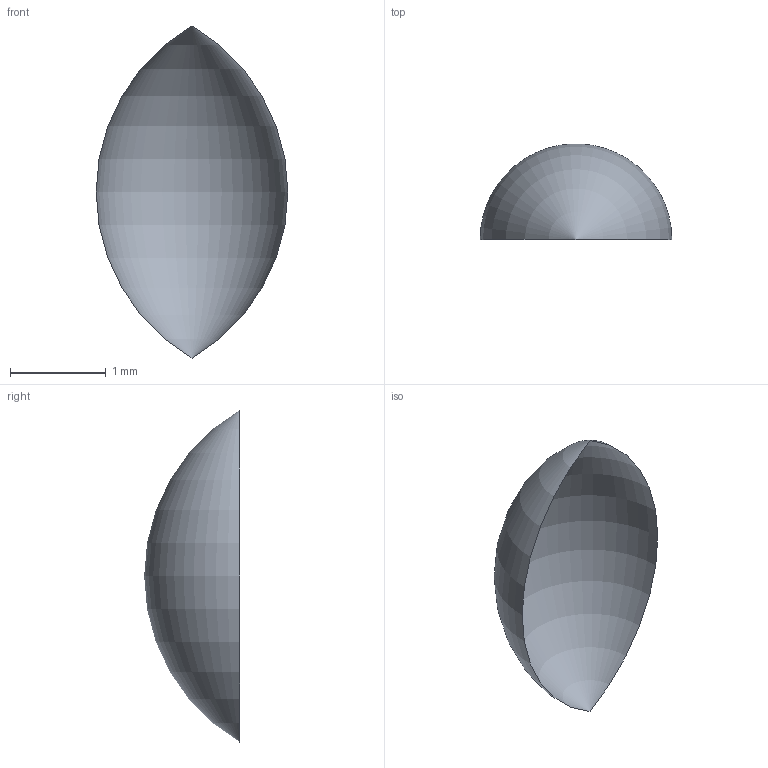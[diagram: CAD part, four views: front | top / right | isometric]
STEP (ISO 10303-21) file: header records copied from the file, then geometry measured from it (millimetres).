
FILE_DESCRIPTION(('BRL-CAD AP214 selected degenerate torus sheet fixture'),'2;1');
FILE_NAME('ap214_degenerate_torus_sheet.stp','2026-08-04T00:00:00',('BRL-CAD'),('BRL-CAD'),'','','');
FILE_SCHEMA(('AUTOMOTIVE_DESIGN { 1 0 10303 214 3 1 1 1 }'));
Length unit declared in the file: millimetre
Products named in the file (1): degenerate_torus_sheet
Bounding box: 2 x 1 x 3.46 mm (x, y, z)
Surface area: 8.6 mm2 (no closed solid volume)
Topology: 0 solids, 1 shells, 1 faces, 4 edges, 2 vertices
Faces by surface type: torus 1
Entity records: 38 total; most frequent: CARTESIAN_POINT 5, DIRECTION 4, AXIS2_PLACEMENT_3D 3, VERTEX_POINT 2, CIRCLE 2, EDGE_CURVE 2, ORIENTED_EDGE 2, DEGENERATE_TOROIDAL_SURFACE 1
